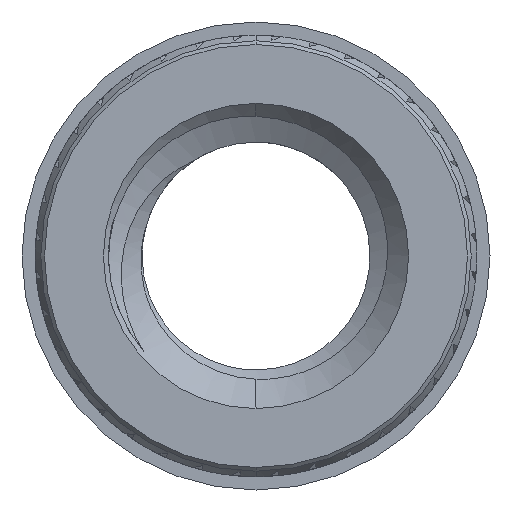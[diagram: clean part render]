
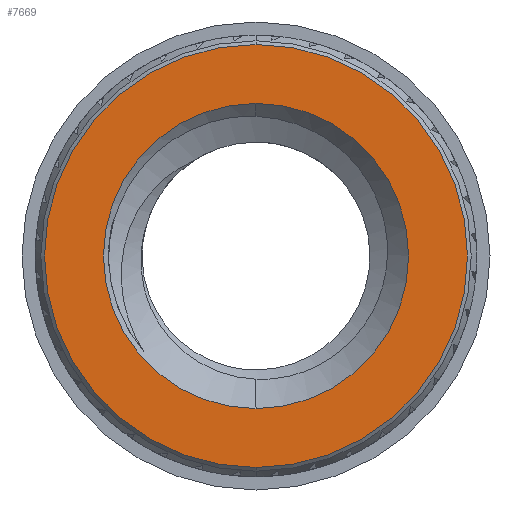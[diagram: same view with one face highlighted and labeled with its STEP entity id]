
A CAD part, front view. The second image highlights one B-rep face of the part: STEP entity #7669.
In plain terms, the highlighted planar face has unit normal (0, -1, 0).
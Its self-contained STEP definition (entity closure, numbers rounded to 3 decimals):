
#255 = DIRECTION ( 'NONE',  ( 0., 0., 1. ) ) ;
#442 = AXIS2_PLACEMENT_3D ( 'NONE', #11031, #5686, #255 ) ;
#532 = DIRECTION ( 'NONE',  ( 0., 0., 1. ) ) ;
#545 = EDGE_LOOP ( 'NONE', ( #8030, #11157 ) ) ;
#1241 = CIRCLE ( 'NONE', #442, 2.87 ) ;
#1444 = CARTESIAN_POINT ( 'NONE',  ( 0., -4.7, 0. ) ) ;
#1575 = ORIENTED_EDGE ( 'NONE', *, *, #3099, .T. ) ;
#1985 = VERTEX_POINT ( 'NONE', #7486 ) ;
#2425 = VERTEX_POINT ( 'NONE', #8514 ) ;
#2823 = DIRECTION ( 'NONE',  ( 0., 1., 0. ) ) ;
#3086 = AXIS2_PLACEMENT_3D ( 'NONE', #9173, #3767, #10051 ) ;
#3099 = EDGE_CURVE ( 'NONE', #1985, #2425, #6956, .T. ) ;
#3226 = CIRCLE ( 'NONE', #3086, 2.87 ) ;
#3767 = DIRECTION ( 'NONE',  ( 0., 1., 0. ) ) ;
#3881 = EDGE_CURVE ( 'NONE', #4072, #8509, #1241, .T. ) ;
#4037 = DIRECTION ( 'NONE',  ( 0., 1., 0. ) ) ;
#4072 = VERTEX_POINT ( 'NONE', #9484 ) ;
#4276 = EDGE_CURVE ( 'NONE', #8509, #4072, #3226, .T. ) ;
#5568 = FACE_BOUND ( 'NONE', #9284, .T. ) ;
#5686 = DIRECTION ( 'NONE',  ( 0., 1., 0. ) ) ;
#5975 = DIRECTION ( 'NONE',  ( 0., 1., 0. ) ) ;
#6532 = CARTESIAN_POINT ( 'NONE',  ( 0., -4.7, 2.87 ) ) ;
#6956 = CIRCLE ( 'NONE', #10059, 2.07 ) ;
#7110 = AXIS2_PLACEMENT_3D ( 'NONE', #1444, #5975, #532 ) ;
#7486 = CARTESIAN_POINT ( 'NONE',  ( 0., -4.7, -2.07 ) ) ;
#7669 = ADVANCED_FACE ( 'NONE', ( #5568, #7973 ), #11303, .F. ) ;
#7865 = EDGE_CURVE ( 'NONE', #2425, #1985, #8973, .T. ) ;
#7973 = FACE_OUTER_BOUND ( 'NONE', #545, .T. ) ;
#8030 = ORIENTED_EDGE ( 'NONE', *, *, #3881, .F. ) ;
#8211 = CARTESIAN_POINT ( 'NONE',  ( 0., -4.7, 0. ) ) ;
#8509 = VERTEX_POINT ( 'NONE', #6532 ) ;
#8514 = CARTESIAN_POINT ( 'NONE',  ( 0., -4.7, 2.07 ) ) ;
#8973 = CIRCLE ( 'NONE', #10452, 2.07 ) ;
#9127 = DIRECTION ( 'NONE',  ( 0., 0., 1. ) ) ;
#9173 = CARTESIAN_POINT ( 'NONE',  ( 0., -4.7, 0. ) ) ;
#9284 = EDGE_LOOP ( 'NONE', ( #1575, #9600 ) ) ;
#9429 = CARTESIAN_POINT ( 'NONE',  ( 0., -4.7, 0. ) ) ;
#9484 = CARTESIAN_POINT ( 'NONE',  ( 0., -4.7, -2.87 ) ) ;
#9600 = ORIENTED_EDGE ( 'NONE', *, *, #7865, .T. ) ;
#10051 = DIRECTION ( 'NONE',  ( 0., 0., 1. ) ) ;
#10059 = AXIS2_PLACEMENT_3D ( 'NONE', #9429, #4037, #10291 ) ;
#10291 = DIRECTION ( 'NONE',  ( 0., 0., 1. ) ) ;
#10452 = AXIS2_PLACEMENT_3D ( 'NONE', #8211, #2823, #9127 ) ;
#11031 = CARTESIAN_POINT ( 'NONE',  ( 0., -4.7, 0. ) ) ;
#11157 = ORIENTED_EDGE ( 'NONE', *, *, #4276, .F. ) ;
#11303 = PLANE ( 'NONE',  #7110 ) ;
